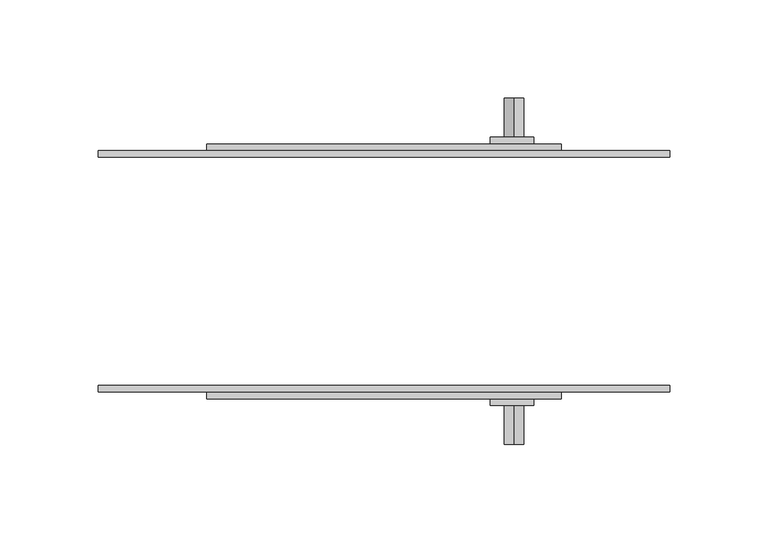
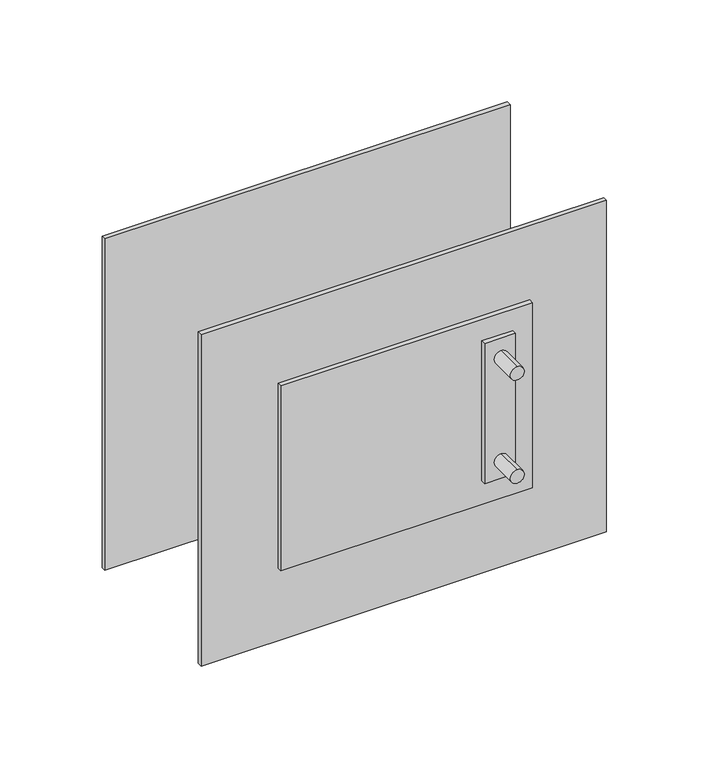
"""IFC4 building model written with IfcOpenShell, lengths in millimetres: proxy geometry, Distribution_Socket_Single_rotated : Distribution_Socket_Single_rotated."""

from ifc_helpers import new_model, si_unit, point, frame, frame_2d, origin, place, context, project, spatial, polyline, circle_curve, trimmed, segment, composite_curve, outline, extrude, source, transform, mapped, element, save


def electrical_equipment_bae1f18c(model_context):
    return source(origin(), model_context, "Body", "SweptSolid", [
        extrude(outline(composite_curve([segment(trimmed(circle_curve(frame_2d((38.3010249, 65.938994)), 5.0), [point((43.3010249, 65.938994))], [point((33.3010249, 65.938994))], False, "CARTESIAN"), True, "CONTINUOUS"), segment(trimmed(circle_curve(frame_2d((38.3010249, 65.938994)), 5.0), [point((33.3010249, 65.938994))], [point((43.3010249, 65.938994))], False, "CARTESIAN"), True, "CONTINUOUS")], self_intersect=False)), frame((0.0, -87.9, 0.0), z_axis=(0.0, 1.0, 0.0), x_axis=(0.0, 0.0, 1.0)), (0.0, 0.0, 1.0), 20.9),
        extrude(outline(composite_curve([segment(trimmed(circle_curve(frame_2d((-39.6946618, 65.938994)), 5.0), [point((-34.6946618, 65.938994))], [point((-44.6946618, 65.938994))], False, "CARTESIAN"), True, "CONTINUOUS"), segment(trimmed(circle_curve(frame_2d((-39.6946618, 65.938994)), 5.0), [point((-44.6946618, 65.938994))], [point((-34.6946618, 65.938994))], False, "CARTESIAN"), True, "CONTINUOUS")], self_intersect=False)), frame((0.0, -87.9, 0.0), z_axis=(0.0, 1.0, 0.0), x_axis=(0.0, 0.0, 1.0)), (0.0, 0.0, 1.0), 20.9),
        extrude(outline(composite_curve([segment(trimmed(circle_curve(frame_2d((38.3010249, 65.938994)), 5.0), [point((43.3010249, 65.938994))], [point((33.3010249, 65.938994))], False, "CARTESIAN"), True, "CONTINUOUS"), segment(trimmed(circle_curve(frame_2d((38.3010249, 65.938994)), 5.0), [point((33.3010249, 65.938994))], [point((43.3010249, 65.938994))], False, "CARTESIAN"), True, "CONTINUOUS")], self_intersect=False)), frame((0.0, 67.0, 0.0), z_axis=(0.0, 1.0, 0.0), x_axis=(0.0, 0.0, 1.0)), (0.0, 0.0, 1.0), 20.9),
        extrude(outline(composite_curve([segment(trimmed(circle_curve(frame_2d((-39.6946618, 65.938994)), 5.0), [point((-34.6946618, 65.938994))], [point((-44.6946618, 65.938994))], False, "CARTESIAN"), True, "CONTINUOUS"), segment(trimmed(circle_curve(frame_2d((-39.6946618, 65.938994)), 5.0), [point((-44.6946618, 65.938994))], [point((-34.6946618, 65.938994))], False, "CARTESIAN"), True, "CONTINUOUS")], self_intersect=False)), frame((0.0, 67.0, 0.0), z_axis=(0.0, 1.0, 0.0), x_axis=(0.0, 0.0, 1.0)), (0.0, 0.0, 1.0), 20.9),
        extrude(outline(polyline([(76.0, -68.1115), (54.0, -68.1115), (54.0, -64.7409978), (76.0, -64.7409978), (76.0, -68.1115)])), frame((0.0, 0.0, -53.0000353), z_axis=(0.0, 0.0, 1.0), x_axis=(1.0, 0.0, 0.0)), (0.0, 0.0, 1.0), 106.0000706),
        extrude(outline(polyline([(76.0, 64.7409978), (54.0, 64.7409978), (54.0, 68.1115), (76.0, 68.1115), (76.0, 64.7409978)])), frame((0.0, 0.0, -53.0000353), z_axis=(0.0, 0.0, 1.0), x_axis=(1.0, 0.0, 0.0)), (0.0, 0.0, 1.0), 106.0000706),
        extrude(outline(polyline([(90.0, -64.7409978), (-90.0, -64.7409978), (-90.0, -61.3705), (90.0, -61.3705), (90.0, -64.7409978)])), frame((0.0, 0.0, -70.61989), z_axis=(0.0, 0.0, 1.0), x_axis=(1.0, 0.0, 0.0)), (0.0, 0.0, 1.0), 140.0000301),
        extrude(outline(polyline([(90.0, 61.3705004), (-90.0, 61.3705004), (-90.0, 64.7409978), (90.0, 64.7409978), (90.0, 61.3705004)])), frame((0.0, 0.0, -70.61989), z_axis=(0.0, 0.0, 1.0), x_axis=(1.0, 0.0, 0.0)), (0.0, 0.0, 1.0), 140.0000301),
        extrude(outline(polyline([(145.0, -61.3705), (-145.0, -61.3705), (-145.0, -58.0), (145.0, -58.0), (145.0, -61.3705)])), frame((0.0, 0.0, -125.3725973), z_axis=(0.0, 0.0, 1.0), x_axis=(1.0, 0.0, 0.0)), (0.0, 0.0, 1.0), 250.7451946),
        extrude(outline(polyline([(145.0, 58.0), (-145.0, 58.0), (-145.0, 61.3705004), (145.0, 61.3705004), (145.0, 58.0)])), frame((0.0, 0.0, -125.3725973), z_axis=(0.0, 0.0, 1.0), x_axis=(1.0, 0.0, 0.0)), (0.0, 0.0, 1.0), 250.7451946),
    ])


if __name__ == "__main__":
    model = new_model("IFC4")
    model_context = context("Model", 3, world=origin())
    ifc_project = project(units=[si_unit("LENGTHUNIT", "METRE", prefix="MILLI")], contexts=[model_context])
    site = spatial("IfcSite", under=ifc_project)
    building = spatial("IfcBuilding", under=site)
    placement = place(None, origin())
    electrical_equipment_shape = electrical_equipment_bae1f18c(model_context)
    element("IfcBuildingElementProxy", 1, Name="Distribution_Socket_Single_rotated : Distribution_Socket_Single_rotated", ObjectType="Distribution_Socket_Single_rotated : Distribution_Socket_Single_rotated", at=placement, inside=building, context=model_context, shape_type="MappedRepresentation", body=[
        mapped(electrical_equipment_shape, transform((0.0, 0.0, 0.0), x_axis=(1.0, 0.0, 0.0), y_axis=(0.0, 1.0, 0.0), z_axis=(0.0, 0.0, 1.0))),
    ])
    save(model, "model.ifc")
